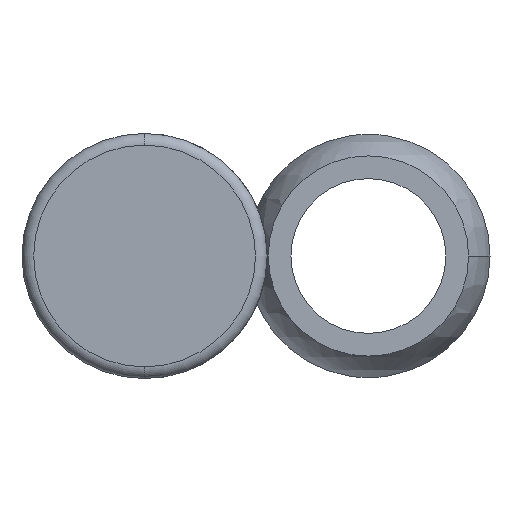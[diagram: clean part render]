
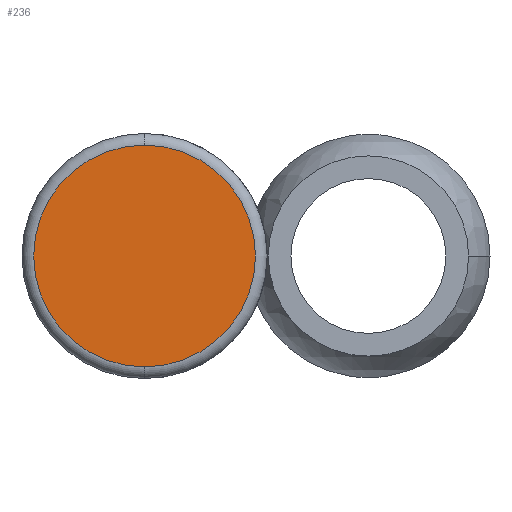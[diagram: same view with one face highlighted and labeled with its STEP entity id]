
A CAD part, front view. The second image highlights one B-rep face of the part: STEP entity #236.
In plain terms, the highlighted planar face has unit normal (0, -1, 0).
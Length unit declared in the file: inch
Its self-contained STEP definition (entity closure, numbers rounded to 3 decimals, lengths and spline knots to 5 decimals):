
#186 = CARTESIAN_POINT ( 'NONE',  ( 0., -1.063, 0. ) ) ;
#211 = EDGE_LOOP ( 'NONE', ( #1121, #570 ) ) ;
#236 = ADVANCED_FACE ( 'NONE', ( #894 ), #392, .F. ) ;
#258 = CIRCLE ( 'NONE', #1283, 0.28496 ) ;
#392 = PLANE ( 'NONE',  #995 ) ;
#404 = DIRECTION ( 'NONE',  ( 0., -1., 0. ) ) ;
#468 = CARTESIAN_POINT ( 'NONE',  ( 0., -1.063, -0.28496 ) ) ;
#485 = DIRECTION ( 'NONE',  ( 0., 0., 1. ) ) ;
#570 = ORIENTED_EDGE ( 'NONE', *, *, #615, .T. ) ;
#592 = DIRECTION ( 'NONE',  ( 0., 1., 0. ) ) ;
#615 = EDGE_CURVE ( 'NONE', #1210, #1191, #890, .T. ) ;
#616 = DIRECTION ( 'NONE',  ( 0., 0., 1. ) ) ;
#747 = DIRECTION ( 'NONE',  ( 0., 0., 1. ) ) ;
#759 = AXIS2_PLACEMENT_3D ( 'NONE', #842, #947, #747 ) ;
#842 = CARTESIAN_POINT ( 'NONE',  ( 0., -1.063, 0. ) ) ;
#890 = CIRCLE ( 'NONE', #759, 0.28496 ) ;
#894 = FACE_OUTER_BOUND ( 'NONE', #211, .T. ) ;
#922 = EDGE_CURVE ( 'NONE', #1191, #1210, #258, .T. ) ;
#947 = DIRECTION ( 'NONE',  ( 0., -1., 0. ) ) ;
#995 = AXIS2_PLACEMENT_3D ( 'NONE', #1208, #592, #485 ) ;
#1080 = CARTESIAN_POINT ( 'NONE',  ( 0., -1.063, 0.28496 ) ) ;
#1121 = ORIENTED_EDGE ( 'NONE', *, *, #922, .T. ) ;
#1191 = VERTEX_POINT ( 'NONE', #1080 ) ;
#1208 = CARTESIAN_POINT ( 'NONE',  ( 0., -1.063, 0. ) ) ;
#1210 = VERTEX_POINT ( 'NONE', #468 ) ;
#1283 = AXIS2_PLACEMENT_3D ( 'NONE', #186, #404, #616 ) ;
